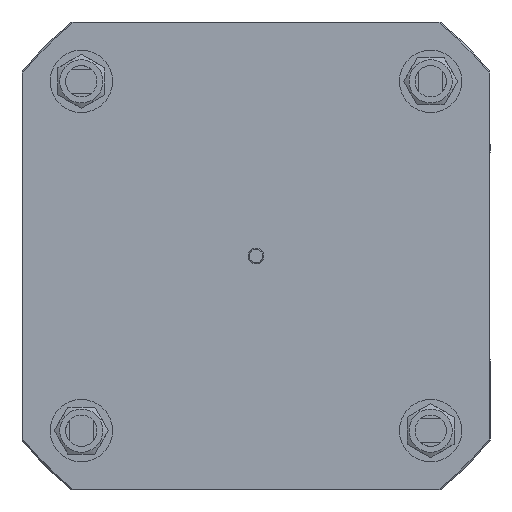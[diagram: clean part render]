
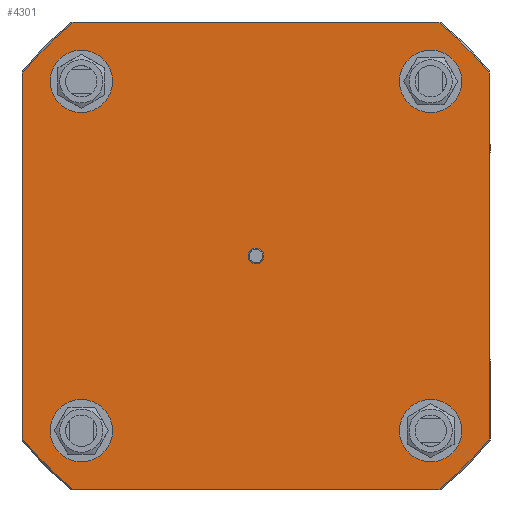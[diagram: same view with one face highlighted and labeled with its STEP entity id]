
A CAD part, left-side view. The second image highlights one B-rep face of the part: STEP entity #4301.
In plain terms, the highlighted planar face has unit normal (-1, 0, 0).
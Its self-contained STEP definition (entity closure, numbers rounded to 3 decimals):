
#228=LINE('',#6977,#466);
#229=LINE('',#6981,#467);
#230=LINE('',#6985,#468);
#231=LINE('',#6989,#469);
#466=VECTOR('',#5609,10.);
#467=VECTOR('',#5612,10.);
#468=VECTOR('',#5615,10.);
#469=VECTOR('',#5618,10.);
#789=FACE_BOUND('',#1226,.T.);
#790=FACE_BOUND('',#1227,.T.);
#791=FACE_BOUND('',#1228,.T.);
#792=FACE_BOUND('',#1229,.T.);
#793=FACE_BOUND('',#1230,.T.);
#950=FACE_OUTER_BOUND('',#1225,.T.);
#1225=EDGE_LOOP('',(#3265,#3266,#3267,#3268,#3269,#3270,#3271,#3272));
#1226=EDGE_LOOP('',(#3273));
#1227=EDGE_LOOP('',(#3274));
#1228=EDGE_LOOP('',(#3275));
#1229=EDGE_LOOP('',(#3276));
#1230=EDGE_LOOP('',(#3277));
#1383=CIRCLE('',#4481,12.);
#1385=CIRCLE('',#4485,12.);
#1387=CIRCLE('',#4489,12.);
#1506=CIRCLE('',#4707,114.);
#1507=CIRCLE('',#4708,114.);
#1508=CIRCLE('',#4709,114.);
#1509=CIRCLE('',#4710,114.);
#1510=CIRCLE('',#4711,3.);
#1511=CIRCLE('',#4712,12.);
#1667=VERTEX_POINT('',#6391);
#1669=VERTEX_POINT('',#6398);
#1671=VERTEX_POINT('',#6405);
#1839=VERTEX_POINT('',#6975);
#1840=VERTEX_POINT('',#6976);
#1841=VERTEX_POINT('',#6978);
#1842=VERTEX_POINT('',#6980);
#1843=VERTEX_POINT('',#6982);
#1844=VERTEX_POINT('',#6984);
#1845=VERTEX_POINT('',#6986);
#1846=VERTEX_POINT('',#6988);
#1847=VERTEX_POINT('',#6991);
#1848=VERTEX_POINT('',#6993);
#2084=EDGE_CURVE('',#1667,#1667,#1383,.T.);
#2087=EDGE_CURVE('',#1669,#1669,#1385,.T.);
#2090=EDGE_CURVE('',#1671,#1671,#1387,.T.);
#2345=EDGE_CURVE('',#1839,#1840,#228,.T.);
#2346=EDGE_CURVE('',#1840,#1841,#1506,.T.);
#2347=EDGE_CURVE('',#1841,#1842,#229,.T.);
#2348=EDGE_CURVE('',#1842,#1843,#1507,.T.);
#2349=EDGE_CURVE('',#1843,#1844,#230,.T.);
#2350=EDGE_CURVE('',#1844,#1845,#1508,.T.);
#2351=EDGE_CURVE('',#1845,#1846,#231,.T.);
#2352=EDGE_CURVE('',#1846,#1839,#1509,.T.);
#2353=EDGE_CURVE('',#1847,#1847,#1510,.T.);
#2354=EDGE_CURVE('',#1848,#1848,#1511,.T.);
#3265=ORIENTED_EDGE('',*,*,#2345,.T.);
#3266=ORIENTED_EDGE('',*,*,#2346,.T.);
#3267=ORIENTED_EDGE('',*,*,#2347,.T.);
#3268=ORIENTED_EDGE('',*,*,#2348,.T.);
#3269=ORIENTED_EDGE('',*,*,#2349,.T.);
#3270=ORIENTED_EDGE('',*,*,#2350,.T.);
#3271=ORIENTED_EDGE('',*,*,#2351,.T.);
#3272=ORIENTED_EDGE('',*,*,#2352,.T.);
#3273=ORIENTED_EDGE('',*,*,#2084,.T.);
#3274=ORIENTED_EDGE('',*,*,#2087,.T.);
#3275=ORIENTED_EDGE('',*,*,#2090,.T.);
#3276=ORIENTED_EDGE('',*,*,#2353,.F.);
#3277=ORIENTED_EDGE('',*,*,#2354,.F.);
#3890=PLANE('',#4706);
#4301=ADVANCED_FACE('',(#950,#789,#790,#791,#792,#793),#3890,.T.);
#4481=AXIS2_PLACEMENT_3D('',#6392,#5043,#5044);
#4485=AXIS2_PLACEMENT_3D('',#6399,#5052,#5053);
#4489=AXIS2_PLACEMENT_3D('',#6406,#5061,#5062);
#4706=AXIS2_PLACEMENT_3D('',#6974,#5607,#5608);
#4707=AXIS2_PLACEMENT_3D('',#6979,#5610,#5611);
#4708=AXIS2_PLACEMENT_3D('',#6983,#5613,#5614);
#4709=AXIS2_PLACEMENT_3D('',#6987,#5616,#5617);
#4710=AXIS2_PLACEMENT_3D('',#6990,#5619,#5620);
#4711=AXIS2_PLACEMENT_3D('',#6992,#5621,#5622);
#4712=AXIS2_PLACEMENT_3D('',#6994,#5623,#5624);
#5043=DIRECTION('center_axis',(1.,0.,0.));
#5044=DIRECTION('ref_axis',(0.,-1.,0.));
#5052=DIRECTION('center_axis',(1.,0.,0.));
#5053=DIRECTION('ref_axis',(0.,0.,1.));
#5061=DIRECTION('center_axis',(1.,0.,0.));
#5062=DIRECTION('ref_axis',(0.,1.,0.));
#5607=DIRECTION('center_axis',(-1.,0.,0.));
#5608=DIRECTION('ref_axis',(0.,0.,1.));
#5609=DIRECTION('',(0.,1.,0.));
#5610=DIRECTION('center_axis',(-1.,0.,0.));
#5611=DIRECTION('ref_axis',(0.,0.,1.));
#5612=DIRECTION('',(0.,0.,-1.));
#5613=DIRECTION('center_axis',(-1.,0.,0.));
#5614=DIRECTION('ref_axis',(0.,0.,1.));
#5615=DIRECTION('',(0.,-1.,0.));
#5616=DIRECTION('center_axis',(-1.,0.,0.));
#5617=DIRECTION('ref_axis',(0.,0.,1.));
#5618=DIRECTION('',(0.,0.,1.));
#5619=DIRECTION('center_axis',(-1.,0.,0.));
#5620=DIRECTION('ref_axis',(0.,0.,1.));
#5621=DIRECTION('center_axis',(-1.,0.,0.));
#5622=DIRECTION('ref_axis',(0.,-0.81,0.587));
#5623=DIRECTION('center_axis',(-1.,0.,0.));
#5624=DIRECTION('ref_axis',(0.,0.,
-1.));
#6391=CARTESIAN_POINT('',(-290.,79.175,67.175));
#6392=CARTESIAN_POINT('Origin',(-290.,67.175,67.175));
#6398=CARTESIAN_POINT('',(-290.,67.175,-79.175));
#6399=CARTESIAN_POINT('Origin',(-290.,67.175,-67.175));
#6405=CARTESIAN_POINT('',(-290.,-79.175,-67.175));
#6406=CARTESIAN_POINT('Origin',(-290.,-67.175,-67.175));
#6974=CARTESIAN_POINT('Origin',(-290.,3.1,0.));
#6975=CARTESIAN_POINT('',(-290.,-69.971,90.));
#6976=CARTESIAN_POINT('',(-290.,69.971,90.));
#6977=CARTESIAN_POINT('',(-290.,-34.245,90.));
#6978=CARTESIAN_POINT('',(-290.,90.,69.971));
#6979=CARTESIAN_POINT('Origin',(-290.,0.,
0.));
#6980=CARTESIAN_POINT('',(-290.,90.,-69.971));
#6981=CARTESIAN_POINT('',(-290.,90.,35.795));
#6982=CARTESIAN_POINT('',(-290.,69.971,-90.));
#6983=CARTESIAN_POINT('Origin',(-290.,0.,
0.));
#6984=CARTESIAN_POINT('',(-290.,-69.971,-90.));
#6985=CARTESIAN_POINT('',(-290.,37.345,-90.));
#6986=CARTESIAN_POINT('',(-290.,-90.,-69.971));
#6987=CARTESIAN_POINT('Origin',(-290.,0.,
0.));
#6988=CARTESIAN_POINT('',(-290.,-90.,69.971));
#6989=CARTESIAN_POINT('',(-290.,-90.,-35.795));
#6990=CARTESIAN_POINT('Origin',(-290.,0.,
0.));
#6991=CARTESIAN_POINT('',(-290.,2.43,-1.76));
#6992=CARTESIAN_POINT('Origin',(-290.,0.,
0.));
#6993=CARTESIAN_POINT('',(-290.,-67.175,79.175));
#6994=CARTESIAN_POINT('Origin',(-290.,-67.175,67.175));
